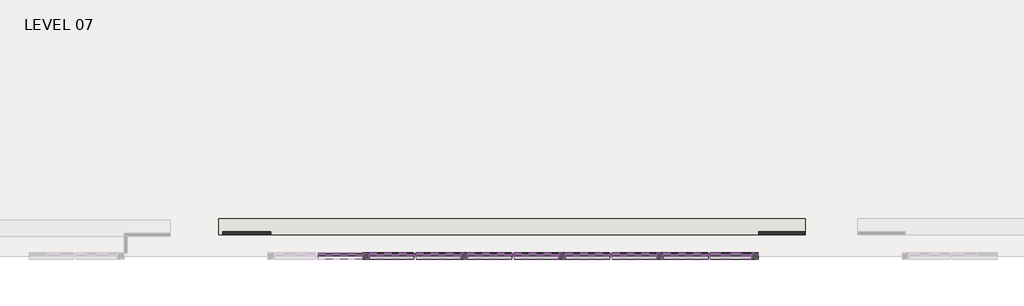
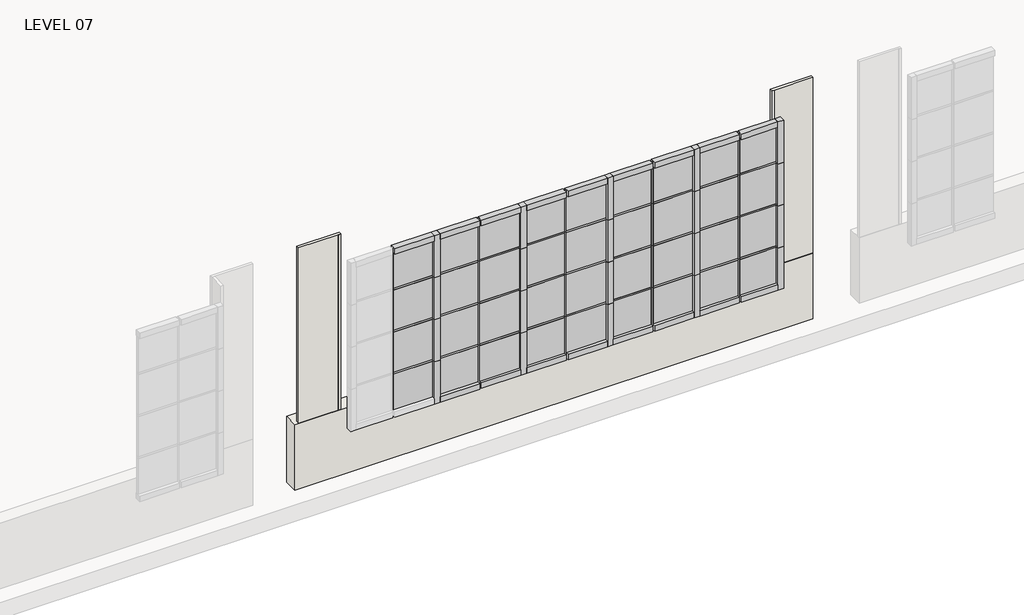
# One storey, part 5 of 15: 80 members, 36 plates, 4 walls.
"""IFC4 building model written with IfcOpenShell, lengths in millimetres."""

from ifc_helpers import new_model, si_unit, frame, origin, place, context, project, spatial, polyline, outline, extrude, faceted_brep, transform, mapped, element, save
from components import member_78bb2ef1, member_cb03ba1c, member_aa53491b, member_c1b5942e, member_9d26962d, member_378e0c06, member_17eb62f4, system_panel_glazed_79ade883, system_panel_glazed_12cc9f41, system_panel_glazed_730530c4, system_panel_glazed_b8d6571b

model = new_model("IFC4")

# Units and contexts
model_context = context("Model", 3, world=origin())
ifc_project = project(units=[si_unit("LENGTHUNIT", "METRE", prefix="MILLI")], contexts=[model_context])

# Site, building, storey
site = spatial("IfcSite", under=ifc_project)
building = spatial("IfcBuilding", under=site)
storey = spatial("IfcBuildingStorey", under=building, Name="LEVEL 07", Elevation=20802.6)

# Members
placement = place(None, origin())
member_shape = member_78bb2ef1(model_context)
element("IfcMember", 1, ObjectType="Rectangular Mullion : 1\" x 1\" - Butt Joint", at=placement, inside=storey, context=model_context, shape_type="MappedRepresentation", body=[
    mapped(member_shape, transform((-12879.9417677, -25119.8112062, 23342.6), x_axis=(1.0, 0.0, 0.0), y_axis=(0.0, -1.0, 0.0), z_axis=(0.0, 0.0, -1.0))),
])
element("IfcMember", 2, ObjectType="Rectangular Mullion : 1\" x 1\" - Butt Joint", at=placement, inside=storey, context=model_context, shape_type="MappedRepresentation", body=[
    mapped(member_shape, transform((-11742.0217677, -25119.8112062, 23342.6), x_axis=(1.0, 0.0, 0.0), y_axis=(0.0, -1.0, 0.0), z_axis=(0.0, 0.0, -1.0))),
])
element("IfcMember", 3, ObjectType="Rectangular Mullion : 1\" x 1\" - Butt Joint", at=placement, inside=storey, context=model_context, shape_type="MappedRepresentation", body=[
    mapped(member_shape, transform((-10604.1017677, -25119.8112062, 23342.6), x_axis=(1.0, 0.0, 0.0), y_axis=(0.0, -1.0, 0.0), z_axis=(0.0, 0.0, -1.0))),
])
element("IfcMember", 4, ObjectType="Rectangular Mullion : 1\" x 1\" - Butt Joint", at=placement, inside=storey, context=model_context, shape_type="MappedRepresentation", body=[
    mapped(member_shape, transform((-9466.1817677, -25119.8112062, 23342.6), x_axis=(1.0, 0.0, 0.0), y_axis=(0.0, -1.0, 0.0), z_axis=(0.0, 0.0, -1.0))),
])
member_2_shape = member_cb03ba1c(model_context)
element("IfcMember", 5, ObjectType="Rectangular Mullion : 1\" x 1\" - Butt Joint", at=placement, inside=storey, context=model_context, shape_type="MappedRepresentation", body=[
    mapped(member_2_shape, transform((-10073.2417677, -25119.8112062, 23342.6), x_axis=(0.0, 0.0, 1.0), y_axis=(0.0, -1.0, 0.0), z_axis=(1.0, 0.0, 0.0))),
])
element("IfcMember", 6, ObjectType="Rectangular Mullion : 1\" x 1\" - Butt Joint", at=placement, inside=storey, context=model_context, shape_type="MappedRepresentation", body=[
    mapped(member_2_shape, transform((-11211.1617677, -25119.8112062, 23342.6), x_axis=(0.0, 0.0, 1.0), y_axis=(0.0, -1.0, 0.0), z_axis=(1.0, 0.0, 0.0))),
])
element("IfcMember", 7, ObjectType="Rectangular Mullion : 1\" x 1\" - Butt Joint", at=placement, inside=storey, context=model_context, shape_type="MappedRepresentation", body=[
    mapped(member_2_shape, transform((-12349.0817677, -25119.8112062, 23342.6), x_axis=(0.0, 0.0, 1.0), y_axis=(0.0, -1.0, 0.0), z_axis=(1.0, 0.0, 0.0))),
])
element("IfcMember", 8, ObjectType="Rectangular Mullion : 1\" x 1\" - Butt Joint", at=placement, inside=storey, context=model_context, shape_type="MappedRepresentation", body=[
    mapped(member_2_shape, transform((-13487.0017677, -25119.8112062, 23342.6), x_axis=(0.0, 0.0, 1.0), y_axis=(0.0, -1.0, 0.0), z_axis=(1.0, 0.0, 0.0))),
])
element("IfcMember", 9, ObjectType="Rectangular Mullion : 1\" x 1\" - Butt Joint", at=placement, inside=storey, context=model_context, shape_type="MappedRepresentation", body=[
    mapped(member_2_shape, transform((-9478.8817677, -25119.8112062, 23342.6), x_axis=(0.0, 0.0, 1.0), y_axis=(0.0, -1.0, 0.0), z_axis=(1.0, 0.0, 0.0))),
])
element("IfcMember", 10, ObjectType="Rectangular Mullion : 1\" x 1\" - Butt Joint", at=placement, inside=storey, context=model_context, shape_type="MappedRepresentation", body=[
    mapped(member_2_shape, transform((-10616.8017677, -25119.8112062, 23342.6), x_axis=(0.0, 0.0, 1.0), y_axis=(0.0, -1.0, 0.0), z_axis=(1.0, 0.0, 0.0))),
])
element("IfcMember", 11, ObjectType="Rectangular Mullion : 1\" x 1\" - Butt Joint", at=placement, inside=storey, context=model_context, shape_type="MappedRepresentation", body=[
    mapped(member_2_shape, transform((-11754.7217677, -25119.8112062, 23342.6), x_axis=(0.0, 0.0, 1.0), y_axis=(0.0, -1.0, 0.0), z_axis=(1.0, 0.0, 0.0))),
])
element("IfcMember", 12, ObjectType="Rectangular Mullion : 1\" x 1\" - Butt Joint", at=placement, inside=storey, context=model_context, shape_type="MappedRepresentation", body=[
    mapped(member_2_shape, transform((-12892.6417677, -25119.8112062, 23342.6), x_axis=(0.0, 0.0, 1.0), y_axis=(0.0, -1.0, 0.0), z_axis=(1.0, 0.0, 0.0))),
])
element("IfcMember", 13, ObjectType="Rectangular Mullion : 1\" x 1\" - Butt Joint", at=placement, inside=storey, context=model_context, shape_type="MappedRepresentation", body=[
    mapped(member_2_shape, transform((-10073.2417677, -25119.8112062, 22758.4), x_axis=(0.0, 0.0, 1.0), y_axis=(0.0, -1.0, 0.0), z_axis=(1.0, 0.0, 0.0))),
])
element("IfcMember", 14, ObjectType="Rectangular Mullion : 1\" x 1\" - Butt Joint", at=placement, inside=storey, context=model_context, shape_type="MappedRepresentation", body=[
    mapped(member_2_shape, transform((-11211.1617677, -25119.8112062, 22758.4), x_axis=(0.0, 0.0, 1.0), y_axis=(0.0, -1.0, 0.0), z_axis=(1.0, 0.0, 0.0))),
])
element("IfcMember", 15, ObjectType="Rectangular Mullion : 1\" x 1\" - Butt Joint", at=placement, inside=storey, context=model_context, shape_type="MappedRepresentation", body=[
    mapped(member_2_shape, transform((-12349.0817677, -25119.8112062, 22758.4), x_axis=(0.0, 0.0, 1.0), y_axis=(0.0, -1.0, 0.0), z_axis=(1.0, 0.0, 0.0))),
])
element("IfcMember", 16, ObjectType="Rectangular Mullion : 1\" x 1\" - Butt Joint", at=placement, inside=storey, context=model_context, shape_type="MappedRepresentation", body=[
    mapped(member_2_shape, transform((-13487.0017677, -25119.8112062, 22758.4), x_axis=(0.0, 0.0, 1.0), y_axis=(0.0, -1.0, 0.0), z_axis=(1.0, 0.0, 0.0))),
])
element("IfcMember", 17, ObjectType="Rectangular Mullion : 1\" x 1\" - Butt Joint", at=placement, inside=storey, context=model_context, shape_type="MappedRepresentation", body=[
    mapped(member_2_shape, transform((-9478.8817677, -25119.8112062, 22758.4), x_axis=(0.0, 0.0, 1.0), y_axis=(0.0, -1.0, 0.0), z_axis=(1.0, 0.0, 0.0))),
])
element("IfcMember", 18, ObjectType="Rectangular Mullion : 1\" x 1\" - Butt Joint", at=placement, inside=storey, context=model_context, shape_type="MappedRepresentation", body=[
    mapped(member_2_shape, transform((-10616.8017677, -25119.8112062, 22758.4), x_axis=(0.0, 0.0, 1.0), y_axis=(0.0, -1.0, 0.0), z_axis=(1.0, 0.0, 0.0))),
])
element("IfcMember", 19, ObjectType="Rectangular Mullion : 1\" x 1\" - Butt Joint", at=placement, inside=storey, context=model_context, shape_type="MappedRepresentation", body=[
    mapped(member_2_shape, transform((-11754.7217677, -25119.8112062, 22758.4), x_axis=(0.0, 0.0, 1.0), y_axis=(0.0, -1.0, 0.0), z_axis=(1.0, 0.0, 0.0))),
])
element("IfcMember", 20, ObjectType="Rectangular Mullion : 1\" x 1\" - Butt Joint", at=placement, inside=storey, context=model_context, shape_type="MappedRepresentation", body=[
    mapped(member_2_shape, transform((-12892.6417677, -25119.8112062, 22758.4), x_axis=(0.0, 0.0, 1.0), y_axis=(0.0, -1.0, 0.0), z_axis=(1.0, 0.0, 0.0))),
])
element("IfcMember", 21, ObjectType="Rectangular Mullion : 1\" x 1\" - Butt Joint", at=placement, inside=storey, context=model_context, shape_type="MappedRepresentation", body=[
    mapped(member_2_shape, transform((-10073.2417677, -25119.8112062, 22174.2), x_axis=(0.0, 0.0, 1.0), y_axis=(0.0, -1.0, 0.0), z_axis=(1.0, 0.0, 0.0))),
])
element("IfcMember", 22, ObjectType="Rectangular Mullion : 1\" x 1\" - Butt Joint", at=placement, inside=storey, context=model_context, shape_type="MappedRepresentation", body=[
    mapped(member_2_shape, transform((-11211.1617677, -25119.8112062, 22174.2), x_axis=(0.0, 0.0, 1.0), y_axis=(0.0, -1.0, 0.0), z_axis=(1.0, 0.0, 0.0))),
])
element("IfcMember", 23, ObjectType="Rectangular Mullion : 1\" x 1\" - Butt Joint", at=placement, inside=storey, context=model_context, shape_type="MappedRepresentation", body=[
    mapped(member_2_shape, transform((-12349.0817677, -25119.8112062, 22174.2), x_axis=(0.0, 0.0, 1.0), y_axis=(0.0, -1.0, 0.0), z_axis=(1.0, 0.0, 0.0))),
])
element("IfcMember", 24, ObjectType="Rectangular Mullion : 1\" x 1\" - Butt Joint", at=placement, inside=storey, context=model_context, shape_type="MappedRepresentation", body=[
    mapped(member_2_shape, transform((-13487.0017677, -25119.8112062, 22174.2), x_axis=(0.0, 0.0, 1.0), y_axis=(0.0, -1.0, 0.0), z_axis=(1.0, 0.0, 0.0))),
])
element("IfcMember", 25, ObjectType="Rectangular Mullion : 1\" x 1\" - Butt Joint", at=placement, inside=storey, context=model_context, shape_type="MappedRepresentation", body=[
    mapped(member_2_shape, transform((-9478.8817677, -25119.8112062, 22174.2), x_axis=(0.0, 0.0, 1.0), y_axis=(0.0, -1.0, 0.0), z_axis=(1.0, 0.0, 0.0))),
])
element("IfcMember", 26, ObjectType="Rectangular Mullion : 1\" x 1\" - Butt Joint", at=placement, inside=storey, context=model_context, shape_type="MappedRepresentation", body=[
    mapped(member_2_shape, transform((-10616.8017677, -25119.8112062, 22174.2), x_axis=(0.0, 0.0, 1.0), y_axis=(0.0, -1.0, 0.0), z_axis=(1.0, 0.0, 0.0))),
])
element("IfcMember", 27, ObjectType="Rectangular Mullion : 1\" x 1\" - Butt Joint", at=placement, inside=storey, context=model_context, shape_type="MappedRepresentation", body=[
    mapped(member_2_shape, transform((-11754.7217677, -25119.8112062, 22174.2), x_axis=(0.0, 0.0, 1.0), y_axis=(0.0, -1.0, 0.0), z_axis=(1.0, 0.0, 0.0))),
])
element("IfcMember", 28, ObjectType="Rectangular Mullion : 1\" x 1\" - Butt Joint", at=placement, inside=storey, context=model_context, shape_type="MappedRepresentation", body=[
    mapped(member_2_shape, transform((-12892.6417677, -25119.8112062, 22174.2), x_axis=(0.0, 0.0, 1.0), y_axis=(0.0, -1.0, 0.0), z_axis=(1.0, 0.0, 0.0))),
])
member_3_shape = member_aa53491b(model_context)
element("IfcMember", 29, ObjectType="Rectangular Mullion : 1\" x 1\" - Butt Joint", at=placement, inside=storey, context=model_context, shape_type="MappedRepresentation", body=[
    mapped(member_3_shape, transform((-8973.4217677, -25119.8112062, 23342.6), x_axis=(0.0, 0.0, 1.0), y_axis=(0.0, -1.0, 0.0), z_axis=(1.0, 0.0, 0.0))),
])
element("IfcMember", 30, ObjectType="Rectangular Mullion : 1\" x 1\" - Butt Joint", at=placement, inside=storey, context=model_context, shape_type="MappedRepresentation", body=[
    mapped(member_3_shape, transform((-8973.4217677, -25119.8112062, 22758.4), x_axis=(0.0, 0.0, 1.0), y_axis=(0.0, -1.0, 0.0), z_axis=(1.0, 0.0, 0.0))),
])
element("IfcMember", 31, ObjectType="Rectangular Mullion : 1\" x 1\" - Butt Joint", at=placement, inside=storey, context=model_context, shape_type="MappedRepresentation", body=[
    mapped(member_3_shape, transform((-8973.4217677, -25119.8112062, 22174.2), x_axis=(0.0, 0.0, 1.0), y_axis=(0.0, -1.0, 0.0), z_axis=(1.0, 0.0, 0.0))),
])
element("IfcMember", 32, ObjectType="Rectangular Mullion : 1\" x 1\" - Butt Joint", at=placement, inside=storey, context=model_context, shape_type="MappedRepresentation", body=[
    mapped(member_shape, transform((-12879.9417677, -25119.8112062, 22758.4), x_axis=(1.0, 0.0, 0.0), y_axis=(0.0, -1.0, 0.0), z_axis=(0.0, 0.0, -1.0))),
])
element("IfcMember", 33, ObjectType="Rectangular Mullion : 1\" x 1\" - Butt Joint", at=placement, inside=storey, context=model_context, shape_type="MappedRepresentation", body=[
    mapped(member_shape, transform((-12879.9417677, -25119.8112062, 22174.2), x_axis=(1.0, 0.0, 0.0), y_axis=(0.0, -1.0, 0.0), z_axis=(0.0, 0.0, -1.0))),
])
element("IfcMember", 34, ObjectType="Rectangular Mullion : 1\" x 1\" - Butt Joint", at=placement, inside=storey, context=model_context, shape_type="MappedRepresentation", body=[
    mapped(member_shape, transform((-11742.0217677, -25119.8112062, 22758.4), x_axis=(1.0, 0.0, 0.0), y_axis=(0.0, -1.0, 0.0), z_axis=(0.0, 0.0, -1.0))),
])
element("IfcMember", 35, ObjectType="Rectangular Mullion : 1\" x 1\" - Butt Joint", at=placement, inside=storey, context=model_context, shape_type="MappedRepresentation", body=[
    mapped(member_shape, transform((-11742.0217677, -25119.8112062, 22174.2), x_axis=(1.0, 0.0, 0.0), y_axis=(0.0, -1.0, 0.0), z_axis=(0.0, 0.0, -1.0))),
])
element("IfcMember", 36, ObjectType="Rectangular Mullion : 1\" x 1\" - Butt Joint", at=placement, inside=storey, context=model_context, shape_type="MappedRepresentation", body=[
    mapped(member_shape, transform((-10604.1017677, -25119.8112062, 22758.4), x_axis=(1.0, 0.0, 0.0), y_axis=(0.0, -1.0, 0.0), z_axis=(0.0, 0.0, -1.0))),
])
element("IfcMember", 37, ObjectType="Rectangular Mullion : 1\" x 1\" - Butt Joint", at=placement, inside=storey, context=model_context, shape_type="MappedRepresentation", body=[
    mapped(member_shape, transform((-10604.1017677, -25119.8112062, 22174.2), x_axis=(1.0, 0.0, 0.0), y_axis=(0.0, -1.0, 0.0), z_axis=(0.0, 0.0, -1.0))),
])
element("IfcMember", 38, ObjectType="Rectangular Mullion : 1\" x 1\" - Butt Joint", at=placement, inside=storey, context=model_context, shape_type="MappedRepresentation", body=[
    mapped(member_shape, transform((-9466.1817677, -25119.8112062, 22758.4), x_axis=(1.0, 0.0, 0.0), y_axis=(0.0, -1.0, 0.0), z_axis=(0.0, 0.0, -1.0))),
])
element("IfcMember", 39, ObjectType="Rectangular Mullion : 1\" x 1\" - Butt Joint", at=placement, inside=storey, context=model_context, shape_type="MappedRepresentation", body=[
    mapped(member_shape, transform((-9466.1817677, -25119.8112062, 22174.2), x_axis=(1.0, 0.0, 0.0), y_axis=(0.0, -1.0, 0.0), z_axis=(0.0, 0.0, -1.0))),
])
element("IfcMember", 40, ObjectType="Rectangular Mullion : 1\" x 1\" - Butt Joint", at=placement, inside=storey, context=model_context, shape_type="MappedRepresentation", body=[
    mapped(member_shape, transform((-12879.9417677, -25119.8112062, 21590.0), x_axis=(1.0, 0.0, 0.0), y_axis=(0.0, -1.0, 0.0), z_axis=(0.0, 0.0, -1.0))),
])
element("IfcMember", 41, ObjectType="Rectangular Mullion : 1\" x 1\" - Butt Joint", at=placement, inside=storey, context=model_context, shape_type="MappedRepresentation", body=[
    mapped(member_shape, transform((-11742.0217677, -25119.8112062, 21590.0), x_axis=(1.0, 0.0, 0.0), y_axis=(0.0, -1.0, 0.0), z_axis=(0.0, 0.0, -1.0))),
])
element("IfcMember", 42, ObjectType="Rectangular Mullion : 1\" x 1\" - Butt Joint", at=placement, inside=storey, context=model_context, shape_type="MappedRepresentation", body=[
    mapped(member_shape, transform((-10604.1017677, -25119.8112062, 21590.0), x_axis=(1.0, 0.0, 0.0), y_axis=(0.0, -1.0, 0.0), z_axis=(0.0, 0.0, -1.0))),
])
element("IfcMember", 43, ObjectType="Rectangular Mullion : 1\" x 1\" - Butt Joint", at=placement, inside=storey, context=model_context, shape_type="MappedRepresentation", body=[
    mapped(member_shape, transform((-9466.1817677, -25119.8112062, 21590.0), x_axis=(1.0, 0.0, 0.0), y_axis=(0.0, -1.0, 0.0), z_axis=(0.0, 0.0, -1.0))),
])
member_4_shape = member_c1b5942e(model_context)
element("IfcMember", 44, ObjectType="Rectangular Mullion : 3\" x 3\" Window Jamb", at=placement, inside=storey, context=model_context, shape_type="MappedRepresentation", body=[
    mapped(member_4_shape, transform((-10591.4017677, -25119.8112062, 21590.0), x_axis=(0.0, 0.0, -1.0), y_axis=(0.0, -1.0, 0.0), z_axis=(-1.0, 0.0, 0.0))),
])
element("IfcMember", 45, ObjectType="Rectangular Mullion : 3\" x 3\" Window Jamb", at=placement, inside=storey, context=model_context, shape_type="MappedRepresentation", body=[
    mapped(member_4_shape, transform((-11729.3217677, -25119.8112062, 21590.0), x_axis=(0.0, 0.0, -1.0), y_axis=(0.0, -1.0, 0.0), z_axis=(-1.0, 0.0, 0.0))),
])
element("IfcMember", 46, ObjectType="Rectangular Mullion : 3\" x 3\" Window Jamb", at=placement, inside=storey, context=model_context, shape_type="MappedRepresentation", body=[
    mapped(member_4_shape, transform((-12867.2417677, -25119.8112062, 21590.0), x_axis=(0.0, 0.0, -1.0), y_axis=(0.0, -1.0, 0.0), z_axis=(-1.0, 0.0, 0.0))),
])
element("IfcMember", 47, ObjectType="Rectangular Mullion : 3\" x 3\" Window Jamb", at=placement, inside=storey, context=model_context, shape_type="MappedRepresentation", body=[
    mapped(member_4_shape, transform((-9997.0417677, -25119.8112062, 21590.0), x_axis=(0.0, 0.0, -1.0), y_axis=(0.0, -1.0, 0.0), z_axis=(-1.0, 0.0, 0.0))),
])
element("IfcMember", 48, ObjectType="Rectangular Mullion : 3\" x 3\" Window Jamb", at=placement, inside=storey, context=model_context, shape_type="MappedRepresentation", body=[
    mapped(member_4_shape, transform((-11134.9617677, -25119.8112062, 21590.0), x_axis=(0.0, 0.0, -1.0), y_axis=(0.0, -1.0, 0.0), z_axis=(-1.0, 0.0, 0.0))),
])
element("IfcMember", 49, ObjectType="Rectangular Mullion : 3\" x 3\" Window Jamb", at=placement, inside=storey, context=model_context, shape_type="MappedRepresentation", body=[
    mapped(member_4_shape, transform((-12272.8817677, -25119.8112062, 21590.0), x_axis=(0.0, 0.0, -1.0), y_axis=(0.0, -1.0, 0.0), z_axis=(-1.0, 0.0, 0.0))),
])
element("IfcMember", 50, ObjectType="Rectangular Mullion : 3\" x 3\" Window Jamb", at=placement, inside=storey, context=model_context, shape_type="MappedRepresentation", body=[
    mapped(member_4_shape, transform((-13410.8017677, -25119.8112062, 21590.0), x_axis=(0.0, 0.0, -1.0), y_axis=(0.0, -1.0, 0.0), z_axis=(-1.0, 0.0, 0.0))),
])
member_5_shape = member_9d26962d(model_context)
element("IfcMember", 51, ObjectType="Rectangular Mullion : 3\" x 3\" Window Jamb", at=placement, inside=storey, context=model_context, shape_type="MappedRepresentation", body=[
    mapped(member_5_shape, transform((-9453.4817677, -25119.8112062, 21590.0), x_axis=(0.0, 0.0, -1.0), y_axis=(0.0, -1.0, 0.0), z_axis=(-1.0, 0.0, 0.0))),
])
element("IfcMember", 52, ObjectType="Rectangular Mullion : 3\" x 3\" Window Jamb", at=placement, inside=storey, context=model_context, shape_type="MappedRepresentation", body=[
    mapped(member_5_shape, transform((-8973.4217677, -25119.8112062, 23926.8), x_axis=(0.0, 0.0, 1.0), y_axis=(0.0, -1.0, 0.0), z_axis=(1.0, 0.0, 0.0))),
])
element("IfcMember", 53, ObjectType="Rectangular Mullion : 3\" x 3\" Window Jamb", at=placement, inside=storey, context=model_context, shape_type="MappedRepresentation", body=[
    mapped(member_4_shape, transform((-9478.8817677, -25119.8112062, 23926.8), x_axis=(0.0, 0.0, 1.0), y_axis=(0.0, -1.0, 0.0), z_axis=(1.0, 0.0, 0.0))),
])
element("IfcMember", 54, ObjectType="Rectangular Mullion : 3\" x 3\" Window Jamb", at=placement, inside=storey, context=model_context, shape_type="MappedRepresentation", body=[
    mapped(member_4_shape, transform((-10616.8017677, -25119.8112062, 23926.8), x_axis=(0.0, 0.0, 1.0), y_axis=(0.0, -1.0, 0.0), z_axis=(1.0, 0.0, 0.0))),
])
element("IfcMember", 55, ObjectType="Rectangular Mullion : 3\" x 3\" Window Jamb", at=placement, inside=storey, context=model_context, shape_type="MappedRepresentation", body=[
    mapped(member_4_shape, transform((-11754.7217677, -25119.8112062, 23926.8), x_axis=(0.0, 0.0, 1.0), y_axis=(0.0, -1.0, 0.0), z_axis=(1.0, 0.0, 0.0))),
])
element("IfcMember", 56, ObjectType="Rectangular Mullion : 3\" x 3\" Window Jamb", at=placement, inside=storey, context=model_context, shape_type="MappedRepresentation", body=[
    mapped(member_4_shape, transform((-12892.6417677, -25119.8112062, 23926.8), x_axis=(0.0, 0.0, 1.0), y_axis=(0.0, -1.0, 0.0), z_axis=(1.0, 0.0, 0.0))),
])
element("IfcMember", 57, ObjectType="Rectangular Mullion : 3\" x 3\" Window Jamb", at=placement, inside=storey, context=model_context, shape_type="MappedRepresentation", body=[
    mapped(member_4_shape, transform((-10073.2417677, -25119.8112062, 23926.8), x_axis=(0.0, 0.0, 1.0), y_axis=(0.0, -1.0, 0.0), z_axis=(1.0, 0.0, 0.0))),
])
element("IfcMember", 58, ObjectType="Rectangular Mullion : 3\" x 3\" Window Jamb", at=placement, inside=storey, context=model_context, shape_type="MappedRepresentation", body=[
    mapped(member_4_shape, transform((-11211.1617677, -25119.8112062, 23926.8), x_axis=(0.0, 0.0, 1.0), y_axis=(0.0, -1.0, 0.0), z_axis=(1.0, 0.0, 0.0))),
])
element("IfcMember", 59, ObjectType="Rectangular Mullion : 3\" x 3\" Window Jamb", at=placement, inside=storey, context=model_context, shape_type="MappedRepresentation", body=[
    mapped(member_4_shape, transform((-12349.0817677, -25119.8112062, 23926.8), x_axis=(0.0, 0.0, 1.0), y_axis=(0.0, -1.0, 0.0), z_axis=(1.0, 0.0, 0.0))),
])
element("IfcMember", 60, ObjectType="Rectangular Mullion : 3\" x 3\" Window Jamb", at=placement, inside=storey, context=model_context, shape_type="MappedRepresentation", body=[
    mapped(member_4_shape, transform((-13487.0017677, -25119.8112062, 23926.8), x_axis=(0.0, 0.0, 1.0), y_axis=(0.0, -1.0, 0.0), z_axis=(1.0, 0.0, 0.0))),
])
member_6_shape = member_378e0c06(model_context)
element("IfcMember", 61, ObjectType="Rectangular Mullion : 3\" x 3\" Window Jamb", at=placement, inside=storey, context=model_context, shape_type="MappedRepresentation", body=[
    mapped(member_6_shape, transform((-13448.9017677, -25119.8112062, 23342.6), x_axis=(1.0, 0.0, 0.0), y_axis=(0.0, -1.0, 0.0), z_axis=(0.0, 0.0, -1.0))),
])
element("IfcMember", 62, ObjectType="Rectangular Mullion : 3\" x 3\" Window Jamb", at=placement, inside=storey, context=model_context, shape_type="MappedRepresentation", body=[
    mapped(member_6_shape, transform((-12310.9817677, -25119.8112062, 23342.6), x_axis=(1.0, 0.0, 0.0), y_axis=(0.0, -1.0, 0.0), z_axis=(0.0, 0.0, -1.0))),
])
element("IfcMember", 63, ObjectType="Rectangular Mullion : 3\" x 3\" Window Jamb", at=placement, inside=storey, context=model_context, shape_type="MappedRepresentation", body=[
    mapped(member_6_shape, transform((-11173.0617677, -25119.8112062, 23342.6), x_axis=(1.0, 0.0, 0.0), y_axis=(0.0, -1.0, 0.0), z_axis=(0.0, 0.0, -1.0))),
])
element("IfcMember", 64, ObjectType="Rectangular Mullion : 3\" x 3\" Window Jamb", at=placement, inside=storey, context=model_context, shape_type="MappedRepresentation", body=[
    mapped(member_6_shape, transform((-10035.1417677, -25119.8112062, 23342.6), x_axis=(1.0, 0.0, 0.0), y_axis=(0.0, -1.0, 0.0), z_axis=(0.0, 0.0, -1.0))),
])
member_7_shape = member_17eb62f4(model_context)
element("IfcMember", 65, ObjectType="Rectangular Mullion : 3\" x 3\" Window Jamb", at=placement, inside=storey, context=model_context, shape_type="MappedRepresentation", body=[
    mapped(member_7_shape, transform((-8897.2217677, -25119.8112062, 23342.6), x_axis=(1.0, 0.0, 0.0), y_axis=(0.0, -1.0, 0.0), z_axis=(0.0, 0.0, -1.0))),
])
element("IfcMember", 66, ObjectType="Rectangular Mullion : 3\" x 3\" Window Jamb", at=placement, inside=storey, context=model_context, shape_type="MappedRepresentation", body=[
    mapped(member_6_shape, transform((-13448.9017677, -25119.8112062, 22758.4), x_axis=(1.0, 0.0, 0.0), y_axis=(0.0, -1.0, 0.0), z_axis=(0.0, 0.0, -1.0))),
])
element("IfcMember", 67, ObjectType="Rectangular Mullion : 3\" x 3\" Window Jamb", at=placement, inside=storey, context=model_context, shape_type="MappedRepresentation", body=[
    mapped(member_6_shape, transform((-13448.9017677, -25119.8112062, 22174.2), x_axis=(1.0, 0.0, 0.0), y_axis=(0.0, -1.0, 0.0), z_axis=(0.0, 0.0, -1.0))),
])
element("IfcMember", 68, ObjectType="Rectangular Mullion : 3\" x 3\" Window Jamb", at=placement, inside=storey, context=model_context, shape_type="MappedRepresentation", body=[
    mapped(member_6_shape, transform((-12310.9817677, -25119.8112062, 22758.4), x_axis=(1.0, 0.0, 0.0), y_axis=(0.0, -1.0, 0.0), z_axis=(0.0, 0.0, -1.0))),
])
element("IfcMember", 69, ObjectType="Rectangular Mullion : 3\" x 3\" Window Jamb", at=placement, inside=storey, context=model_context, shape_type="MappedRepresentation", body=[
    mapped(member_6_shape, transform((-12310.9817677, -25119.8112062, 22174.2), x_axis=(1.0, 0.0, 0.0), y_axis=(0.0, -1.0, 0.0), z_axis=(0.0, 0.0, -1.0))),
])
element("IfcMember", 70, ObjectType="Rectangular Mullion : 3\" x 3\" Window Jamb", at=placement, inside=storey, context=model_context, shape_type="MappedRepresentation", body=[
    mapped(member_6_shape, transform((-11173.0617677, -25119.8112062, 22758.4), x_axis=(1.0, 0.0, 0.0), y_axis=(0.0, -1.0, 0.0), z_axis=(0.0, 0.0, -1.0))),
])
element("IfcMember", 71, ObjectType="Rectangular Mullion : 3\" x 3\" Window Jamb", at=placement, inside=storey, context=model_context, shape_type="MappedRepresentation", body=[
    mapped(member_6_shape, transform((-11173.0617677, -25119.8112062, 22174.2), x_axis=(1.0, 0.0, 0.0), y_axis=(0.0, -1.0, 0.0), z_axis=(0.0, 0.0, -1.0))),
])
element("IfcMember", 72, ObjectType="Rectangular Mullion : 3\" x 3\" Window Jamb", at=placement, inside=storey, context=model_context, shape_type="MappedRepresentation", body=[
    mapped(member_6_shape, transform((-10035.1417677, -25119.8112062, 22758.4), x_axis=(1.0, 0.0, 0.0), y_axis=(0.0, -1.0, 0.0), z_axis=(0.0, 0.0, -1.0))),
])
element("IfcMember", 73, ObjectType="Rectangular Mullion : 3\" x 3\" Window Jamb", at=placement, inside=storey, context=model_context, shape_type="MappedRepresentation", body=[
    mapped(member_6_shape, transform((-10035.1417677, -25119.8112062, 22174.2), x_axis=(1.0, 0.0, 0.0), y_axis=(0.0, -1.0, 0.0), z_axis=(0.0, 0.0, -1.0))),
])
element("IfcMember", 74, ObjectType="Rectangular Mullion : 3\" x 3\" Window Jamb", at=placement, inside=storey, context=model_context, shape_type="MappedRepresentation", body=[
    mapped(member_7_shape, transform((-8897.2217677, -25119.8112062, 22758.4), x_axis=(1.0, 0.0, 0.0), y_axis=(0.0, -1.0, 0.0), z_axis=(0.0, 0.0, -1.0))),
])
element("IfcMember", 75, ObjectType="Rectangular Mullion : 3\" x 3\" Window Jamb", at=placement, inside=storey, context=model_context, shape_type="MappedRepresentation", body=[
    mapped(member_7_shape, transform((-8897.2217677, -25119.8112062, 22174.2), x_axis=(1.0, 0.0, 0.0), y_axis=(0.0, -1.0, 0.0), z_axis=(0.0, 0.0, -1.0))),
])
element("IfcMember", 76, ObjectType="Rectangular Mullion : 3\" x 3\" Window Jamb", at=placement, inside=storey, context=model_context, shape_type="MappedRepresentation", body=[
    mapped(member_6_shape, transform((-13448.9017677, -25119.8112062, 21590.0), x_axis=(1.0, 0.0, 0.0), y_axis=(0.0, -1.0, 0.0), z_axis=(0.0, 0.0, -1.0))),
])
element("IfcMember", 77, ObjectType="Rectangular Mullion : 3\" x 3\" Window Jamb", at=placement, inside=storey, context=model_context, shape_type="MappedRepresentation", body=[
    mapped(member_6_shape, transform((-12310.9817677, -25119.8112062, 21590.0), x_axis=(1.0, 0.0, 0.0), y_axis=(0.0, -1.0, 0.0), z_axis=(0.0, 0.0, -1.0))),
])
element("IfcMember", 78, ObjectType="Rectangular Mullion : 3\" x 3\" Window Jamb", at=placement, inside=storey, context=model_context, shape_type="MappedRepresentation", body=[
    mapped(member_6_shape, transform((-11173.0617677, -25119.8112062, 21590.0), x_axis=(1.0, 0.0, 0.0), y_axis=(0.0, -1.0, 0.0), z_axis=(0.0, 0.0, -1.0))),
])
element("IfcMember", 79, ObjectType="Rectangular Mullion : 3\" x 3\" Window Jamb", at=placement, inside=storey, context=model_context, shape_type="MappedRepresentation", body=[
    mapped(member_6_shape, transform((-10035.1417677, -25119.8112062, 21590.0), x_axis=(1.0, 0.0, 0.0), y_axis=(0.0, -1.0, 0.0), z_axis=(0.0, 0.0, -1.0))),
])
element("IfcMember", 80, ObjectType="Rectangular Mullion : 3\" x 3\" Window Jamb", at=placement, inside=storey, context=model_context, shape_type="MappedRepresentation", body=[
    mapped(member_7_shape, transform((-8897.2217677, -25119.8112062, 21590.0), x_axis=(1.0, 0.0, 0.0), y_axis=(0.0, -1.0, 0.0), z_axis=(0.0, 0.0, -1.0))),
])

# Plates
system_panel_glazed_shape = system_panel_glazed_79ade883(model_context)
element("IfcPlate", 81, ObjectType="System Panel : Glazed", at=placement, inside=storey, context=model_context, shape_type="MappedRepresentation", body=[
    mapped(system_panel_glazed_shape, transform((-9213.4517677, -25119.8112062, 21666.2), x_axis=(1.0, 0.0, 0.0), y_axis=(0.0, 1.0, 0.0), z_axis=(0.0, 0.0, 1.0))),
])
element("IfcPlate", 82, ObjectType="System Panel : Glazed", at=placement, inside=storey, context=model_context, shape_type="MappedRepresentation", body=[
    mapped(system_panel_glazed_shape, transform((-9213.4517677, -25119.8112062, 23355.3), x_axis=(1.0, 0.0, 0.0), y_axis=(0.0, 1.0, 0.0), z_axis=(0.0, 0.0, 1.0))),
])
system_panel_glazed_2_shape = system_panel_glazed_12cc9f41(model_context)
element("IfcPlate", 83, ObjectType="System Panel : Glazed", at=placement, inside=storey, context=model_context, shape_type="MappedRepresentation", body=[
    mapped(system_panel_glazed_2_shape, transform((-13151.7217677, -25119.8112062, 21666.2), x_axis=(1.0, 0.0, 0.0), y_axis=(0.0, 1.0, 0.0), z_axis=(0.0, 0.0, 1.0))),
])
element("IfcPlate", 84, ObjectType="System Panel : Glazed", at=placement, inside=storey, context=model_context, shape_type="MappedRepresentation", body=[
    mapped(system_panel_glazed_2_shape, transform((-12013.8017677, -25119.8112062, 21666.2), x_axis=(1.0, 0.0, 0.0), y_axis=(0.0, 1.0, 0.0), z_axis=(0.0, 0.0, 1.0))),
])
element("IfcPlate", 85, ObjectType="System Panel : Glazed", at=placement, inside=storey, context=model_context, shape_type="MappedRepresentation", body=[
    mapped(system_panel_glazed_2_shape, transform((-10875.8817677, -25119.8112062, 21666.2), x_axis=(1.0, 0.0, 0.0), y_axis=(0.0, 1.0, 0.0), z_axis=(0.0, 0.0, 1.0))),
])
element("IfcPlate", 86, ObjectType="System Panel : Glazed", at=placement, inside=storey, context=model_context, shape_type="MappedRepresentation", body=[
    mapped(system_panel_glazed_2_shape, transform((-9737.9617677, -25119.8112062, 21666.2), x_axis=(1.0, 0.0, 0.0), y_axis=(0.0, 1.0, 0.0), z_axis=(0.0, 0.0, 1.0))),
])
element("IfcPlate", 87, ObjectType="System Panel : Glazed", at=placement, inside=storey, context=model_context, shape_type="MappedRepresentation", body=[
    mapped(system_panel_glazed_2_shape, transform((-13151.7217677, -25119.8112062, 23355.3), x_axis=(1.0, 0.0, 0.0), y_axis=(0.0, 1.0, 0.0), z_axis=(0.0, 0.0, 1.0))),
])
element("IfcPlate", 88, ObjectType="System Panel : Glazed", at=placement, inside=storey, context=model_context, shape_type="MappedRepresentation", body=[
    mapped(system_panel_glazed_2_shape, transform((-12013.8017677, -25119.8112062, 23355.3), x_axis=(1.0, 0.0, 0.0), y_axis=(0.0, 1.0, 0.0), z_axis=(0.0, 0.0, 1.0))),
])
element("IfcPlate", 89, ObjectType="System Panel : Glazed", at=placement, inside=storey, context=model_context, shape_type="MappedRepresentation", body=[
    mapped(system_panel_glazed_2_shape, transform((-10875.8817677, -25119.8112062, 23355.3), x_axis=(1.0, 0.0, 0.0), y_axis=(0.0, 1.0, 0.0), z_axis=(0.0, 0.0, 1.0))),
])
element("IfcPlate", 90, ObjectType="System Panel : Glazed", at=placement, inside=storey, context=model_context, shape_type="MappedRepresentation", body=[
    mapped(system_panel_glazed_2_shape, transform((-9737.9617677, -25119.8112062, 23355.3), x_axis=(1.0, 0.0, 0.0), y_axis=(0.0, 1.0, 0.0), z_axis=(0.0, 0.0, 1.0))),
])
element("IfcPlate", 91, ObjectType="System Panel : Glazed", at=placement, inside=storey, context=model_context, shape_type="MappedRepresentation", body=[
    mapped(system_panel_glazed_2_shape, transform((-13746.0817677, -25119.8112062, 21666.2), x_axis=(1.0, 0.0, 0.0), y_axis=(0.0, 1.0, 0.0), z_axis=(0.0, 0.0, 1.0))),
])
element("IfcPlate", 92, ObjectType="System Panel : Glazed", at=placement, inside=storey, context=model_context, shape_type="MappedRepresentation", body=[
    mapped(system_panel_glazed_2_shape, transform((-13746.0817677, -25119.8112062, 23355.3), x_axis=(1.0, 0.0, 0.0), y_axis=(0.0, 1.0, 0.0), z_axis=(0.0, 0.0, 1.0))),
])
element("IfcPlate", 93, ObjectType="System Panel : Glazed", at=placement, inside=storey, context=model_context, shape_type="MappedRepresentation", body=[
    mapped(system_panel_glazed_2_shape, transform((-12608.1617677, -25119.8112062, 21666.2), x_axis=(1.0, 0.0, 0.0), y_axis=(0.0, 1.0, 0.0), z_axis=(0.0, 0.0, 1.0))),
])
element("IfcPlate", 94, ObjectType="System Panel : Glazed", at=placement, inside=storey, context=model_context, shape_type="MappedRepresentation", body=[
    mapped(system_panel_glazed_2_shape, transform((-12608.1617677, -25119.8112062, 23355.3), x_axis=(1.0, 0.0, 0.0), y_axis=(0.0, 1.0, 0.0), z_axis=(0.0, 0.0, 1.0))),
])
element("IfcPlate", 95, ObjectType="System Panel : Glazed", at=placement, inside=storey, context=model_context, shape_type="MappedRepresentation", body=[
    mapped(system_panel_glazed_2_shape, transform((-11470.2417677, -25119.8112062, 21666.2), x_axis=(1.0, 0.0, 0.0), y_axis=(0.0, 1.0, 0.0), z_axis=(0.0, 0.0, 1.0))),
])
element("IfcPlate", 96, ObjectType="System Panel : Glazed", at=placement, inside=storey, context=model_context, shape_type="MappedRepresentation", body=[
    mapped(system_panel_glazed_2_shape, transform((-11470.2417677, -25119.8112062, 23355.3), x_axis=(1.0, 0.0, 0.0), y_axis=(0.0, 1.0, 0.0), z_axis=(0.0, 0.0, 1.0))),
])
element("IfcPlate", 97, ObjectType="System Panel : Glazed", at=placement, inside=storey, context=model_context, shape_type="MappedRepresentation", body=[
    mapped(system_panel_glazed_2_shape, transform((-10332.3217677, -25119.8112062, 21666.2), x_axis=(1.0, 0.0, 0.0), y_axis=(0.0, 1.0, 0.0), z_axis=(0.0, 0.0, 1.0))),
])
element("IfcPlate", 98, ObjectType="System Panel : Glazed", at=placement, inside=storey, context=model_context, shape_type="MappedRepresentation", body=[
    mapped(system_panel_glazed_2_shape, transform((-10332.3217677, -25119.8112062, 23355.3), x_axis=(1.0, 0.0, 0.0), y_axis=(0.0, 1.0, 0.0), z_axis=(0.0, 0.0, 1.0))),
])
system_panel_glazed_3_shape = system_panel_glazed_730530c4(model_context)
element("IfcPlate", 99, ObjectType="System Panel : Glazed", at=placement, inside=storey, context=model_context, shape_type="MappedRepresentation", body=[
    mapped(system_panel_glazed_3_shape, transform((-9213.4517677, -25119.8112062, 22186.9), x_axis=(1.0, 0.0, 0.0), y_axis=(0.0, 1.0, 0.0), z_axis=(0.0, 0.0, 1.0))),
])
element("IfcPlate", 100, ObjectType="System Panel : Glazed", at=placement, inside=storey, context=model_context, shape_type="MappedRepresentation", body=[
    mapped(system_panel_glazed_3_shape, transform((-9213.4517677, -25119.8112062, 22771.1), x_axis=(1.0, 0.0, 0.0), y_axis=(0.0, 1.0, 0.0), z_axis=(0.0, 0.0, 1.0))),
])
system_panel_glazed_4_shape = system_panel_glazed_b8d6571b(model_context)
element("IfcPlate", 101, ObjectType="System Panel : Glazed", at=placement, inside=storey, context=model_context, shape_type="MappedRepresentation", body=[
    mapped(system_panel_glazed_4_shape, transform((-13151.7217677, -25119.8112062, 22186.9), x_axis=(1.0, 0.0, 0.0), y_axis=(0.0, 1.0, 0.0), z_axis=(0.0, 0.0, 1.0))),
])
element("IfcPlate", 102, ObjectType="System Panel : Glazed", at=placement, inside=storey, context=model_context, shape_type="MappedRepresentation", body=[
    mapped(system_panel_glazed_4_shape, transform((-12013.8017677, -25119.8112062, 22186.9), x_axis=(1.0, 0.0, 0.0), y_axis=(0.0, 1.0, 0.0), z_axis=(0.0, 0.0, 1.0))),
])
element("IfcPlate", 103, ObjectType="System Panel : Glazed", at=placement, inside=storey, context=model_context, shape_type="MappedRepresentation", body=[
    mapped(system_panel_glazed_4_shape, transform((-10875.8817677, -25119.8112062, 22186.9), x_axis=(1.0, 0.0, 0.0), y_axis=(0.0, 1.0, 0.0), z_axis=(0.0, 0.0, 1.0))),
])
element("IfcPlate", 104, ObjectType="System Panel : Glazed", at=placement, inside=storey, context=model_context, shape_type="MappedRepresentation", body=[
    mapped(system_panel_glazed_4_shape, transform((-9737.9617677, -25119.8112062, 22186.9), x_axis=(1.0, 0.0, 0.0), y_axis=(0.0, 1.0, 0.0), z_axis=(0.0, 0.0, 1.0))),
])
element("IfcPlate", 105, ObjectType="System Panel : Glazed", at=placement, inside=storey, context=model_context, shape_type="MappedRepresentation", body=[
    mapped(system_panel_glazed_4_shape, transform((-13151.7217677, -25119.8112062, 22771.1), x_axis=(1.0, 0.0, 0.0), y_axis=(0.0, 1.0, 0.0), z_axis=(0.0, 0.0, 1.0))),
])
element("IfcPlate", 106, ObjectType="System Panel : Glazed", at=placement, inside=storey, context=model_context, shape_type="MappedRepresentation", body=[
    mapped(system_panel_glazed_4_shape, transform((-12013.8017677, -25119.8112062, 22771.1), x_axis=(1.0, 0.0, 0.0), y_axis=(0.0, 1.0, 0.0), z_axis=(0.0, 0.0, 1.0))),
])
element("IfcPlate", 107, ObjectType="System Panel : Glazed", at=placement, inside=storey, context=model_context, shape_type="MappedRepresentation", body=[
    mapped(system_panel_glazed_4_shape, transform((-10875.8817677, -25119.8112062, 22771.1), x_axis=(1.0, 0.0, 0.0), y_axis=(0.0, 1.0, 0.0), z_axis=(0.0, 0.0, 1.0))),
])
element("IfcPlate", 108, ObjectType="System Panel : Glazed", at=placement, inside=storey, context=model_context, shape_type="MappedRepresentation", body=[
    mapped(system_panel_glazed_4_shape, transform((-9737.9617677, -25119.8112062, 22771.1), x_axis=(1.0, 0.0, 0.0), y_axis=(0.0, 1.0, 0.0), z_axis=(0.0, 0.0, 1.0))),
])
element("IfcPlate", 109, ObjectType="System Panel : Glazed", at=placement, inside=storey, context=model_context, shape_type="MappedRepresentation", body=[
    mapped(system_panel_glazed_4_shape, transform((-13746.0817677, -25119.8112062, 22186.9), x_axis=(1.0, 0.0, 0.0), y_axis=(0.0, 1.0, 0.0), z_axis=(0.0, 0.0, 1.0))),
])
element("IfcPlate", 110, ObjectType="System Panel : Glazed", at=placement, inside=storey, context=model_context, shape_type="MappedRepresentation", body=[
    mapped(system_panel_glazed_4_shape, transform((-13746.0817677, -25119.8112062, 22771.1), x_axis=(1.0, 0.0, 0.0), y_axis=(0.0, 1.0, 0.0), z_axis=(0.0, 0.0, 1.0))),
])
element("IfcPlate", 111, ObjectType="System Panel : Glazed", at=placement, inside=storey, context=model_context, shape_type="MappedRepresentation", body=[
    mapped(system_panel_glazed_4_shape, transform((-12608.1617677, -25119.8112062, 22186.9), x_axis=(1.0, 0.0, 0.0), y_axis=(0.0, 1.0, 0.0), z_axis=(0.0, 0.0, 1.0))),
])
element("IfcPlate", 112, ObjectType="System Panel : Glazed", at=placement, inside=storey, context=model_context, shape_type="MappedRepresentation", body=[
    mapped(system_panel_glazed_4_shape, transform((-12608.1617677, -25119.8112062, 22771.1), x_axis=(1.0, 0.0, 0.0), y_axis=(0.0, 1.0, 0.0), z_axis=(0.0, 0.0, 1.0))),
])
element("IfcPlate", 113, ObjectType="System Panel : Glazed", at=placement, inside=storey, context=model_context, shape_type="MappedRepresentation", body=[
    mapped(system_panel_glazed_4_shape, transform((-11470.2417677, -25119.8112062, 22186.9), x_axis=(1.0, 0.0, 0.0), y_axis=(0.0, 1.0, 0.0), z_axis=(0.0, 0.0, 1.0))),
])
element("IfcPlate", 114, ObjectType="System Panel : Glazed", at=placement, inside=storey, context=model_context, shape_type="MappedRepresentation", body=[
    mapped(system_panel_glazed_4_shape, transform((-11470.2417677, -25119.8112062, 22771.1), x_axis=(1.0, 0.0, 0.0), y_axis=(0.0, 1.0, 0.0), z_axis=(0.0, 0.0, 1.0))),
])
element("IfcPlate", 115, ObjectType="System Panel : Glazed", at=placement, inside=storey, context=model_context, shape_type="MappedRepresentation", body=[
    mapped(system_panel_glazed_4_shape, transform((-10332.3217677, -25119.8112062, 22186.9), x_axis=(1.0, 0.0, 0.0), y_axis=(0.0, 1.0, 0.0), z_axis=(0.0, 0.0, 1.0))),
])
element("IfcPlate", 116, ObjectType="System Panel : Glazed", at=placement, inside=storey, context=model_context, shape_type="MappedRepresentation", body=[
    mapped(system_panel_glazed_4_shape, transform((-10332.3217677, -25119.8112062, 22771.1), x_axis=(1.0, 0.0, 0.0), y_axis=(0.0, 1.0, 0.0), z_axis=(0.0, 0.0, 1.0))),
])

# Walls
element("IfcWall", 117, ObjectType="Partition A6_", at=placement, inside=storey, context=model_context, shape_type="SweptSolid", body=[
    extrude(outline(polyline([(-8352.0721136, -24886.7398215), (-15155.4599596, -24886.7398215), (-15155.4599596, -24702.5898215), (-8352.0721136, -24702.5898215), (-8352.0721136, -24886.7398215)])), frame((0.0, 0.0, 20802.6), z_axis=(0.0, 0.0, 1.0), x_axis=(1.0, 0.0, 0.0)), (0.0, 0.0, 1.0), 914.4),
])
element("IfcWall", 118, ObjectType="Partition F0_", at=placement, inside=storey, context=model_context, shape_type="Brep", body=[
    faceted_brep([(-15107.8349596, -24885.596455, 21717.0), (-14586.8217677, -24885.596455, 21717.0), (-14551.8967677, -24885.596455, 21717.0), (-14551.8967677, -24885.596455, 24155.4), (-14586.8217677, -24885.596455, 24155.4), (-15107.8349596, -24885.596455, 24155.4), (-15107.8349596, -24850.671455, 21717.0), (-15107.8349596, -24850.671455, 24155.4), (-14551.8967677, -24850.671455, 24155.4), (-14551.8967677, -24850.671455, 21717.0)], [[[0, 1, 2, 3, 4, 5]], [[6, 7, 8, 9]], [[2, 1, 0, 6, 9]], [[5, 4, 3, 8, 7]], [[0, 5, 7, 6]], [[3, 2, 9, 8]]]),
])
element("IfcWall", 119, ObjectType="Partition F0_", at=placement, inside=storey, context=model_context, shape_type="Brep", body=[
    faceted_brep([(-8890.2346136, -24885.1523215, 21717.0), (-8855.3096136, -24885.1523215, 21717.0), (-8352.0721136, -24885.1523215, 21717.0), (-8352.0721136, -24885.1523215, 24155.4), (-8855.3096136, -24885.1523215, 24155.4), (-8890.2346136, -24885.1523215, 24155.4), (-8890.2346136, -24850.2273215, 21717.0), (-8890.2346136, -24850.2273215, 24155.4), (-8352.0721136, -24850.2273215, 24155.4), (-8352.0721136, -24850.2273215, 21717.0)], [[[0, 1, 2, 3, 4, 5]], [[6, 7, 8, 9]], [[2, 1, 0, 6, 9]], [[3, 2, 9, 8]], [[5, 4, 3, 8, 7]], [[0, 5, 7, 6]]]),
])
element("IfcWall", 120, ObjectType="Partition F0_", at=placement, inside=storey, context=model_context, shape_type="SweptSolid", body=[
    extrude(outline(polyline([(-14586.8217677, -24886.7398215), (-14586.8217677, -24885.596455), (-14551.8967677, -24885.596455), (-14551.8967677, -24886.7398215), (-14586.8217677, -24886.7398215)])), frame((0.0, 0.0, 21717.0), z_axis=(0.0, 0.0, 1.0), x_axis=(1.0, 0.0, 0.0)), (0.0, 0.0, 1.0), 2438.4),
])

save(model, "model.ifc")
